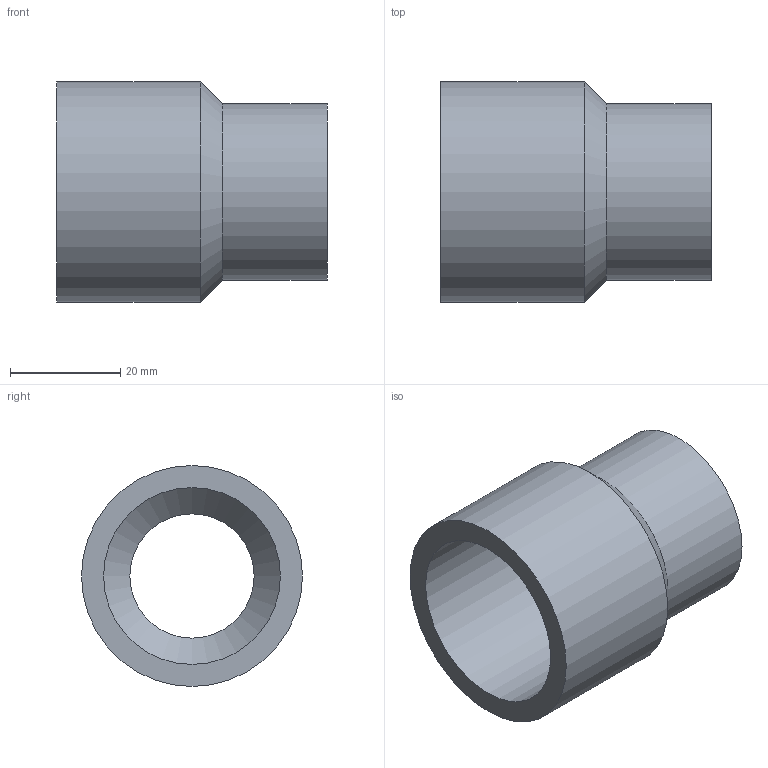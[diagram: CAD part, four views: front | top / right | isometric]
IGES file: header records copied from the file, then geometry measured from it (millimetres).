
Global section: file name: 050200040025.ipt; native system: Autodesk Inventor 2015; preprocessor: unknown; author: KIM; date: 20171207.164149; units: millimetre
Bounding box: 49 x 40 x 40 mm (x, y, z)
Volume: 20117.7 mm3; surface area: 11244.6 mm2
Topology: 1 solids, 1 shells, 10 faces, 23 edges, 16 vertices
Faces by surface type: revolution 4, plane 3, cylinder 2, cone 1
Full cylindrical faces by diameter (mm): 32 x1, 40 x1
